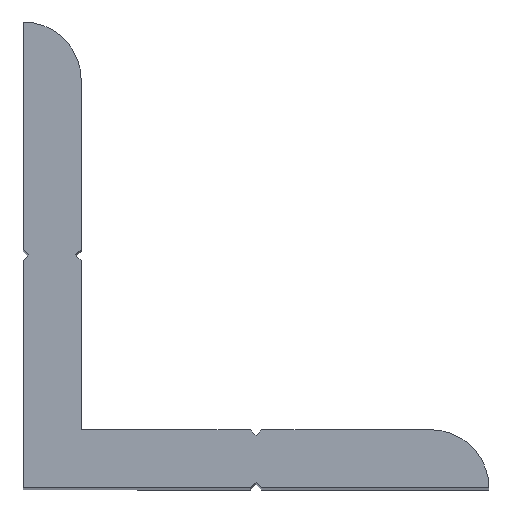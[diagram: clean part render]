
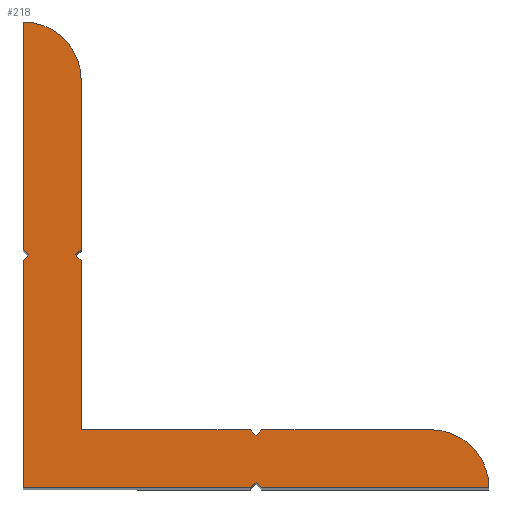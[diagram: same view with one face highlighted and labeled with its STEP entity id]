
A CAD part, top view. The second image highlights one B-rep face of the part: STEP entity #218.
In plain terms, the highlighted planar face has unit normal (0, 0, 1).
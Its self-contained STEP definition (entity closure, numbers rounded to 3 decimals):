
#1 = CARTESIAN_POINT ( 'NONE',  ( -20., 20., 50. ) ) ;
#5 = CARTESIAN_POINT ( 'NONE',  ( 0., -19.5, 50. ) ) ;
#7 = LINE ( 'NONE', #552, #571 ) ;
#8 = CARTESIAN_POINT ( 'NONE',  ( 20., -20., 50. ) ) ;
#10 = DIRECTION ( 'NONE',  ( 0., -1., 0. ) ) ;
#11 = VECTOR ( 'NONE', #313, 1000. ) ;
#12 = EDGE_CURVE ( 'NONE', #70, #687, #288, .T. ) ;
#19 = VERTEX_POINT ( 'NONE', #306 ) ;
#31 = VERTEX_POINT ( 'NONE', #582 ) ;
#36 = ORIENTED_EDGE ( 'NONE', *, *, #443, .F. ) ;
#43 = LINE ( 'NONE', #215, #203 ) ;
#49 = CIRCLE ( 'NONE', #452, 5. ) ;
#52 = DIRECTION ( 'NONE',  ( 0.707, 0.707, 0. ) ) ;
#56 = PLANE ( 'NONE',  #593 ) ;
#59 = DIRECTION ( 'NONE',  ( 1., 0., 0. ) ) ;
#64 = VECTOR ( 'NONE', #617, 1000. ) ;
#65 = CARTESIAN_POINT ( 'NONE',  ( -0.5, -15., 50. ) ) ;
#70 = VERTEX_POINT ( 'NONE', #434 ) ;
#71 = LINE ( 'NONE', #175, #522 ) ;
#72 = VERTEX_POINT ( 'NONE', #311 ) ;
#79 = CARTESIAN_POINT ( 'NONE',  ( -15.5, 0., 50. ) ) ;
#93 = CARTESIAN_POINT ( 'NONE',  ( -19.5, 0., 50. ) ) ;
#94 = DIRECTION ( 'NONE',  ( 0., 1., 0. ) ) ;
#98 = CARTESIAN_POINT ( 'NONE',  ( -0.5, -20., 50. ) ) ;
#108 = VECTOR ( 'NONE', #395, 1000. ) ;
#111 = VERTEX_POINT ( 'NONE', #535 ) ;
#112 = DIRECTION ( 'NONE',  ( 0., 0., -1. ) ) ;
#121 = VECTOR ( 'NONE', #346, 1000. ) ;
#122 = VERTEX_POINT ( 'NONE', #314 ) ;
#125 = CARTESIAN_POINT ( 'NONE',  ( -15., 0.5, 50. ) ) ;
#129 = ORIENTED_EDGE ( 'NONE', *, *, #139, .F. ) ;
#136 = VECTOR ( 'NONE', #10, 1000. ) ;
#138 = VERTEX_POINT ( 'NONE', #317 ) ;
#139 = EDGE_CURVE ( 'NONE', #122, #70, #649, .T. ) ;
#156 = DIRECTION ( 'NONE',  ( -0.707, 0.707, 0. ) ) ;
#161 = EDGE_CURVE ( 'NONE', #19, #391, #43, .T. ) ;
#163 = CARTESIAN_POINT ( 'NONE',  ( -15., -0.5, 50. ) ) ;
#167 = LINE ( 'NONE', #341, #121 ) ;
#171 = EDGE_CURVE ( 'NONE', #242, #605, #376, .T. ) ;
#173 = LINE ( 'NONE', #390, #702 ) ;
#175 = CARTESIAN_POINT ( 'NONE',  ( -15., -15., 50. ) ) ;
#180 = VECTOR ( 'NONE', #373, 1000. ) ;
#190 = EDGE_CURVE ( 'NONE', #228, #574, #479, .T. ) ;
#203 = VECTOR ( 'NONE', #156, 1000. ) ;
#206 = EDGE_CURVE ( 'NONE', #401, #19, #503, .T. ) ;
#214 = DIRECTION ( 'NONE',  ( -0.707, -0.707, 0. ) ) ;
#215 = CARTESIAN_POINT ( 'NONE',  ( 0.5, -20., 50. ) ) ;
#216 = CARTESIAN_POINT ( 'NONE',  ( 15., -15., 50. ) ) ;
#218 = ADVANCED_FACE ( 'NONE', ( #621 ), #56, .F. ) ;
#223 = DIRECTION ( 'NONE',  ( 0., 0., -1. ) ) ;
#224 = CIRCLE ( 'NONE', #630, 5. ) ;
#226 = DIRECTION ( 'NONE',  ( -1., 0., 0. ) ) ;
#228 = VERTEX_POINT ( 'NONE', #125 ) ;
#229 = CARTESIAN_POINT ( 'NONE',  ( 0., -15.5, 50. ) ) ;
#231 = ORIENTED_EDGE ( 'NONE', *, *, #699, .F. ) ;
#234 = CARTESIAN_POINT ( 'NONE',  ( -20., -0.5, 50. ) ) ;
#242 = VERTEX_POINT ( 'NONE', #229 ) ;
#248 = EDGE_CURVE ( 'NONE', #605, #467, #7, .T. ) ;
#252 = ORIENTED_EDGE ( 'NONE', *, *, #470, .F. ) ;
#253 = EDGE_CURVE ( 'NONE', #111, #514, #167, .T. ) ;
#260 = CARTESIAN_POINT ( 'NONE',  ( 0., -15.5, 50. ) ) ;
#272 = EDGE_CURVE ( 'NONE', #669, #228, #615, .T. ) ;
#280 = CARTESIAN_POINT ( 'NONE',  ( 15., -20., 50. ) ) ;
#288 = LINE ( 'NONE', #234, #64 ) ;
#295 = ORIENTED_EDGE ( 'NONE', *, *, #462, .F. ) ;
#298 = ORIENTED_EDGE ( 'NONE', *, *, #647, .F. ) ;
#306 = CARTESIAN_POINT ( 'NONE',  ( 0.5, -20., 50. ) ) ;
#311 = CARTESIAN_POINT ( 'NONE',  ( -0.5, -15., 50. ) ) ;
#312 = EDGE_CURVE ( 'NONE', #521, #72, #71, .T. ) ;
#313 = DIRECTION ( 'NONE',  ( -1., 0., 0. ) ) ;
#314 = CARTESIAN_POINT ( 'NONE',  ( -20., -20., 50. ) ) ;
#317 = CARTESIAN_POINT ( 'NONE',  ( -0.5, -20., 50. ) ) ;
#330 = DIRECTION ( 'NONE',  ( -1., 0., 0. ) ) ;
#341 = CARTESIAN_POINT ( 'NONE',  ( -20., 0.5, 50. ) ) ;
#346 = DIRECTION ( 'NONE',  ( 0., 1., 0. ) ) ;
#359 = ORIENTED_EDGE ( 'NONE', *, *, #253, .F. ) ;
#365 = CARTESIAN_POINT ( 'NONE',  ( -15., 15., 50. ) ) ;
#366 = EDGE_CURVE ( 'NONE', #31, #521, #375, .T. ) ;
#373 = DIRECTION ( 'NONE',  ( -0.707, -0.707, 0. ) ) ;
#375 = LINE ( 'NONE', #163, #438 ) ;
#376 = LINE ( 'NONE', #260, #416 ) ;
#381 = VECTOR ( 'NONE', #226, 1000. ) ;
#390 = CARTESIAN_POINT ( 'NONE',  ( 0., -19.5, 50. ) ) ;
#391 = VERTEX_POINT ( 'NONE', #5 ) ;
#395 = DIRECTION ( 'NONE',  ( 0.707, -0.707, 0. ) ) ;
#396 = VECTOR ( 'NONE', #482, 1000. ) ;
#399 = ORIENTED_EDGE ( 'NONE', *, *, #366, .F. ) ;
#401 = VERTEX_POINT ( 'NONE', #8 ) ;
#410 = ORIENTED_EDGE ( 'NONE', *, *, #481, .F. ) ;
#411 = EDGE_CURVE ( 'NONE', #514, #669, #49, .T. ) ;
#415 = ORIENTED_EDGE ( 'NONE', *, *, #248, .F. ) ;
#416 = VECTOR ( 'NONE', #52, 1000. ) ;
#429 = LINE ( 'NONE', #98, #11 ) ;
#434 = CARTESIAN_POINT ( 'NONE',  ( -20., -0.5, 50. ) ) ;
#436 = DIRECTION ( 'NONE',  ( 0., 0., -1. ) ) ;
#437 = DIRECTION ( 'NONE',  ( -1., 0., 0. ) ) ;
#438 = VECTOR ( 'NONE', #597, 1000. ) ;
#442 = CARTESIAN_POINT ( 'NONE',  ( -15., 15., 50. ) ) ;
#443 = EDGE_CURVE ( 'NONE', #467, #401, #224, .T. ) ;
#450 = DIRECTION ( 'NONE',  ( 1., 0., 0. ) ) ;
#452 = AXIS2_PLACEMENT_3D ( 'NONE', #498, #223, #549 ) ;
#459 = ORIENTED_EDGE ( 'NONE', *, *, #411, .F. ) ;
#460 = CARTESIAN_POINT ( 'NONE',  ( 0.5, -15., 50. ) ) ;
#462 = EDGE_CURVE ( 'NONE', #391, #138, #173, .T. ) ;
#467 = VERTEX_POINT ( 'NONE', #216 ) ;
#470 = EDGE_CURVE ( 'NONE', #138, #122, #429, .T. ) ;
#479 = LINE ( 'NONE', #595, #180 ) ;
#481 = EDGE_CURVE ( 'NONE', #574, #31, #540, .T. ) ;
#482 = DIRECTION ( 'NONE',  ( 0.707, -0.707, 0. ) ) ;
#484 = VECTOR ( 'NONE', #94, 1000. ) ;
#498 = CARTESIAN_POINT ( 'NONE',  ( -20., 15., 50. ) ) ;
#503 = LINE ( 'NONE', #508, #381 ) ;
#507 = ORIENTED_EDGE ( 'NONE', *, *, #12, .F. ) ;
#508 = CARTESIAN_POINT ( 'NONE',  ( 20., -20., 50. ) ) ;
#514 = VERTEX_POINT ( 'NONE', #1 ) ;
#521 = VERTEX_POINT ( 'NONE', #654 ) ;
#522 = VECTOR ( 'NONE', #450, 1000. ) ;
#525 = ORIENTED_EDGE ( 'NONE', *, *, #206, .F. ) ;
#534 = DIRECTION ( 'NONE',  ( -0.707, 0.707, 0. ) ) ;
#535 = CARTESIAN_POINT ( 'NONE',  ( -20., 0.5, 50. ) ) ;
#537 = CARTESIAN_POINT ( 'NONE',  ( -15.5, 0., 50. ) ) ;
#540 = LINE ( 'NONE', #537, #396 ) ;
#541 = CARTESIAN_POINT ( 'NONE',  ( -20., -20., 50. ) ) ;
#549 = DIRECTION ( 'NONE',  ( -1., 0., 0. ) ) ;
#550 = ORIENTED_EDGE ( 'NONE', *, *, #190, .F. ) ;
#552 = CARTESIAN_POINT ( 'NONE',  ( 0.5, -15., 50. ) ) ;
#559 = LINE ( 'NONE', #65, #108 ) ;
#571 = VECTOR ( 'NONE', #59, 1000. ) ;
#574 = VERTEX_POINT ( 'NONE', #79 ) ;
#577 = ORIENTED_EDGE ( 'NONE', *, *, #312, .F. ) ;
#582 = CARTESIAN_POINT ( 'NONE',  ( -15., -0.5, 50. ) ) ;
#593 = AXIS2_PLACEMENT_3D ( 'NONE', #280, #112, #437 ) ;
#595 = CARTESIAN_POINT ( 'NONE',  ( -15., 0.5, 50. ) ) ;
#597 = DIRECTION ( 'NONE',  ( 0., -1., 0. ) ) ;
#605 = VERTEX_POINT ( 'NONE', #460 ) ;
#614 = ORIENTED_EDGE ( 'NONE', *, *, #272, .F. ) ;
#615 = LINE ( 'NONE', #442, #136 ) ;
#617 = DIRECTION ( 'NONE',  ( 0.707, 0.707, 0. ) ) ;
#621 = FACE_OUTER_BOUND ( 'NONE', #690, .T. ) ;
#626 = ORIENTED_EDGE ( 'NONE', *, *, #171, .F. ) ;
#630 = AXIS2_PLACEMENT_3D ( 'NONE', #661, #436, #330 ) ;
#633 = LINE ( 'NONE', #93, #660 ) ;
#643 = CARTESIAN_POINT ( 'NONE',  ( -19.5, 0., 50. ) ) ;
#647 = EDGE_CURVE ( 'NONE', #72, #242, #559, .T. ) ;
#649 = LINE ( 'NONE', #541, #484 ) ;
#654 = CARTESIAN_POINT ( 'NONE',  ( -15., -15., 50. ) ) ;
#660 = VECTOR ( 'NONE', #534, 1000. ) ;
#661 = CARTESIAN_POINT ( 'NONE',  ( 15., -20., 50. ) ) ;
#669 = VERTEX_POINT ( 'NONE', #365 ) ;
#675 = ORIENTED_EDGE ( 'NONE', *, *, #161, .F. ) ;
#687 = VERTEX_POINT ( 'NONE', #643 ) ;
#690 = EDGE_LOOP ( 'NONE', ( #298, #577, #399, #410, #550, #614, #459, #359, #231, #507, #129, #252, #295, #675, #525, #36, #415, #626 ) ) ;
#699 = EDGE_CURVE ( 'NONE', #687, #111, #633, .T. ) ;
#702 = VECTOR ( 'NONE', #214, 1000. ) ;
